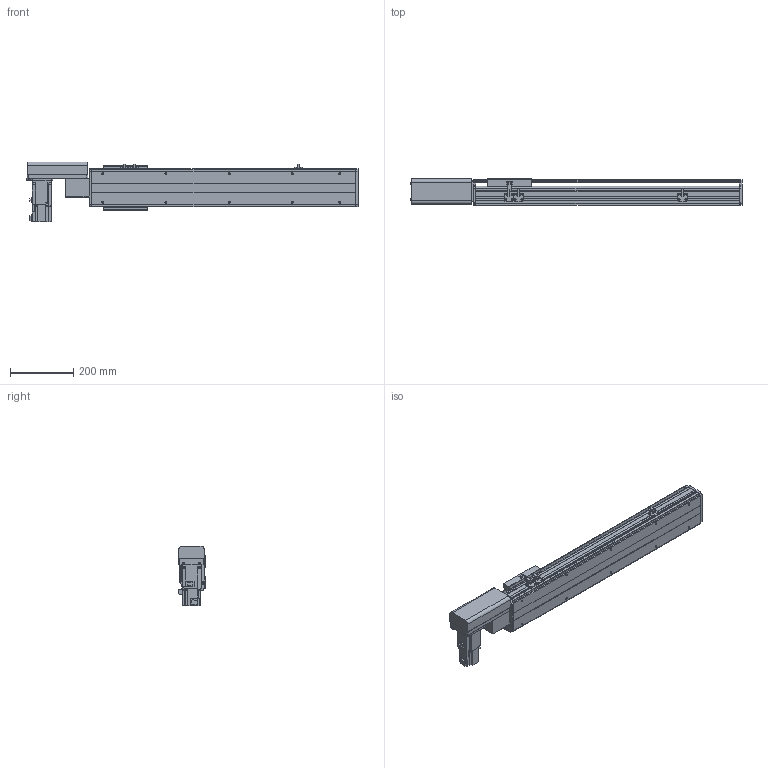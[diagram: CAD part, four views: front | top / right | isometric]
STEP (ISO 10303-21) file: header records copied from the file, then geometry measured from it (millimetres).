
FILE_DESCRIPTION( ( 'STEP AP214' ), '1' );
FILE_NAME( 'x:/temp/worker_27/temp/exporttempdir_6708_5_jEDI7/format_0/PBS120-P40-S550-R-T40-C1-N(0).stp', '2022-06-06T00:05:43', ( 'License CC BY-ND 4.0' ), ( 'CADENAS' ), ' ', 'PARTsolutions', ' ' );
FILE_SCHEMA( ( 'AUTOMOTIVE_DESIGN { 1 0 10303 214 1 1 1 1 }' ) );
Length unit declared in the file: millimetre
Products named in the file (7): PBS120-P40-S550-R-T40-C1-N(0); _PBS120-S550()_body; _PBS120T-R_motors; _T40-p1; _PBS120_sliser; _PBS120_plant; _PBS120_sensor
Assembly tree (8 placements, depth 2):
  PBS120-P40-S550-R-T40-C1-N(0)
    _PBS120-S550()_body
    _PBS120T-R_motors
    _T40-p1
    _PBS120_sliser
    _PBS120_plant
    _PBS120_sensor  x3
Bounding box: 1051 x 83 x 189.7 mm (x, y, z)
Volume: 4496567.9 mm3; surface area: 840564.5 mm2
Topology: 8 solids, 8 shells, 810 faces, 2126 edges, 1369 vertices
Faces by surface type: plane 543, cylinder 223, cone 42, torus 2
Full cylindrical faces by diameter (mm): 2.459 x6, 3.242 x4, 4 x2, 4.134 x4, 4.5 x10, 4.917 x14, 5.5 x11, 6 x2, 6.6 x1, 7 x2, 8.5 x4, 9 x4, 12 x1, 14 x1, 30 x2, 40 x1, 50 x2
Entity records: 26820 total; most frequent: DIRECTION 3668, CARTESIAN_POINT 3623, ORIENTED_EDGE 3466, EDGE_CURVE 1733, LINE 1228, VECTOR 1228, AXIS2_PLACEMENT_3D 1220, VERTEX_POINT 1175
